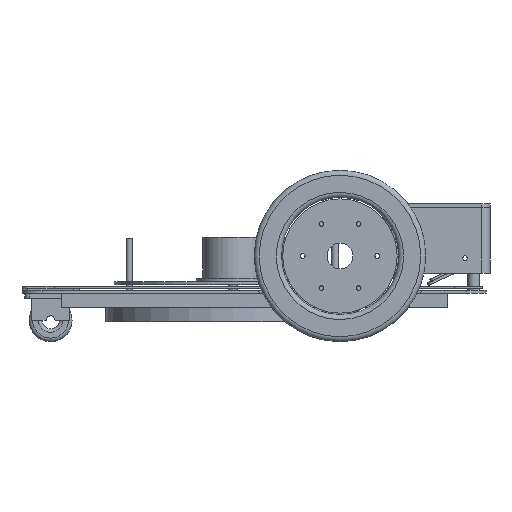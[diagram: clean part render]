
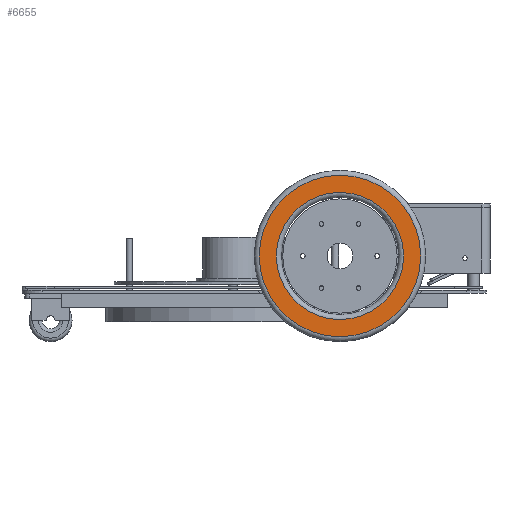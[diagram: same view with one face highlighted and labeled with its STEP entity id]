
A CAD part, front view. The second image highlights one B-rep face of the part: STEP entity #6655.
In plain terms, the highlighted planar face has unit normal (0, -1, 0).
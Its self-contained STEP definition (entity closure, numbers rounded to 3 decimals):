
#6508 = TOROIDAL_SURFACE('',#6509,113.,7.);
#6509 = AXIS2_PLACEMENT_3D('',#6510,#6511,#6512);
#6510 = CARTESIAN_POINT('',(0.,-25.,0.));
#6511 = DIRECTION('',(0.,-1.,-0.));
#6512 = DIRECTION('',(1.,0.,0.));
#6551 = VERTEX_POINT('',#6552);
#6552 = CARTESIAN_POINT('',(113.,-32.,0.));
#6574 = EDGE_CURVE('',#6551,#6551,#6575,.T.);
#6575 = SURFACE_CURVE('',#6576,(#6581,#6588),.PCURVE_S1.);
#6576 = CIRCLE('',#6577,113.);
#6577 = AXIS2_PLACEMENT_3D('',#6578,#6579,#6580);
#6578 = CARTESIAN_POINT('',(0.,-32.,0.));
#6579 = DIRECTION('',(0.,-1.,-0.));
#6580 = DIRECTION('',(1.,0.,0.));
#6581 = PCURVE('',#6508,#6582);
#6582 = DEFINITIONAL_REPRESENTATION('',(#6583),#6587);
#6583 = LINE('',#6584,#6585);
#6584 = CARTESIAN_POINT('',(0.,1.571));
#6585 = VECTOR('',#6586,1.);
#6586 = DIRECTION('',(1.,0.));
#6587 = ( GEOMETRIC_REPRESENTATION_CONTEXT(2) 
PARAMETRIC_REPRESENTATION_CONTEXT() REPRESENTATION_CONTEXT('2D SPACE',''
  ) );
#6588 = PCURVE('',#6589,#6594);
#6589 = PLANE('',#6590);
#6590 = AXIS2_PLACEMENT_3D('',#6591,#6592,#6593);
#6591 = CARTESIAN_POINT('',(0.,-32.,0.)
  );
#6592 = DIRECTION('',(-0.,-1.,-0.));
#6593 = DIRECTION('',(0.,0.,-1.));
#6594 = DEFINITIONAL_REPRESENTATION('',(#6595),#6599);
#6595 = CIRCLE('',#6596,113.);
#6596 = AXIS2_PLACEMENT_2D('',#6597,#6598);
#6597 = CARTESIAN_POINT('',(0.,0.));
#6598 = DIRECTION('',(0.,1.));
#6599 = ( GEOMETRIC_REPRESENTATION_CONTEXT(2) 
PARAMETRIC_REPRESENTATION_CONTEXT() REPRESENTATION_CONTEXT('2D SPACE',''
  ) );
#6655 = ADVANCED_FACE('',(#6656,#6659),#6589,.T.);
#6656 = FACE_BOUND('',#6657,.T.);
#6657 = EDGE_LOOP('',(#6658));
#6658 = ORIENTED_EDGE('',*,*,#6574,.T.);
#6659 = FACE_BOUND('',#6660,.T.);
#6660 = EDGE_LOOP('',(#6661));
#6661 = ORIENTED_EDGE('',*,*,#6662,.F.);
#6662 = EDGE_CURVE('',#6663,#6663,#6665,.T.);
#6663 = VERTEX_POINT('',#6664);
#6664 = CARTESIAN_POINT('',(89.,-32.,0.));
#6665 = SURFACE_CURVE('',#6666,(#6671,#6678),.PCURVE_S1.);
#6666 = CIRCLE('',#6667,89.);
#6667 = AXIS2_PLACEMENT_3D('',#6668,#6669,#6670);
#6668 = CARTESIAN_POINT('',(0.,-32.,0.)
  );
#6669 = DIRECTION('',(0.,-1.,-0.));
#6670 = DIRECTION('',(1.,0.,0.));
#6671 = PCURVE('',#6589,#6672);
#6672 = DEFINITIONAL_REPRESENTATION('',(#6673),#6677);
#6673 = CIRCLE('',#6674,89.);
#6674 = AXIS2_PLACEMENT_2D('',#6675,#6676);
#6675 = CARTESIAN_POINT('',(0.,0.));
#6676 = DIRECTION('',(0.,1.));
#6677 = ( GEOMETRIC_REPRESENTATION_CONTEXT(2) 
PARAMETRIC_REPRESENTATION_CONTEXT() REPRESENTATION_CONTEXT('2D SPACE',''
  ) );
#6678 = PCURVE('',#6679,#6684);
#6679 = TOROIDAL_SURFACE('',#6680,89.,7.);
#6680 = AXIS2_PLACEMENT_3D('',#6681,#6682,#6683);
#6681 = CARTESIAN_POINT('',(0.,-25.,0.)
  );
#6682 = DIRECTION('',(0.,-1.,-0.));
#6683 = DIRECTION('',(1.,0.,0.));
#6684 = DEFINITIONAL_REPRESENTATION('',(#6685),#6689);
#6685 = LINE('',#6686,#6687);
#6686 = CARTESIAN_POINT('',(0.,1.571));
#6687 = VECTOR('',#6688,1.);
#6688 = DIRECTION('',(1.,0.));
#6689 = ( GEOMETRIC_REPRESENTATION_CONTEXT(2) 
PARAMETRIC_REPRESENTATION_CONTEXT() REPRESENTATION_CONTEXT('2D SPACE',''
  ) );
